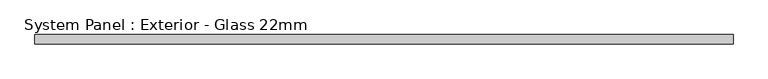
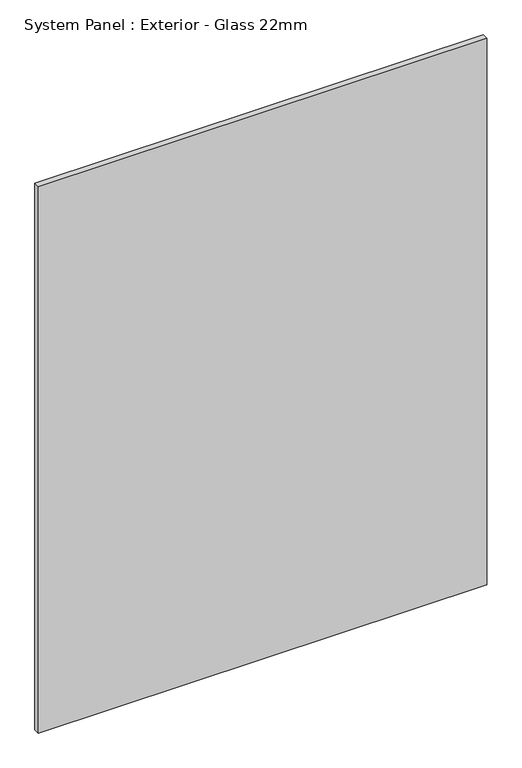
"""IFC4 building model written with IfcOpenShell, lengths in millimetres: plate geometry, System Panel : Exterior - Glass 22mm."""

from ifc_helpers import new_model, si_unit, origin, origin_with_axes, place, context, project, spatial, polyline, outline, extrude, source, transform, mapped, element, save


def system_panel_exterior_glass_22mm_266c4f93(model_context):
    return source(origin(), model_context, "Body", "SweptSolid", [
        extrude(outline(polyline([(815.0, -50.0), (-815.0, -50.0), (-815.0, -28.0), (815.0, -28.0), (815.0, -50.0)])), origin_with_axes(), (0.0, 0.0, 1.0), 2100.0),
    ])


if __name__ == "__main__":
    model = new_model("IFC4")
    model_context = context("Model", 3, world=origin())
    ifc_project = project(units=[si_unit("LENGTHUNIT", "METRE", prefix="MILLI")], contexts=[model_context])
    site = spatial("IfcSite", under=ifc_project)
    building = spatial("IfcBuilding", under=site)
    placement = place(None, origin())
    system_panel_exterior_glass_22mm_shape = system_panel_exterior_glass_22mm_266c4f93(model_context)
    element("IfcPlate", 1, ObjectType="System Panel : Exterior - Glass 22mm", at=placement, inside=building, context=model_context, shape_type="MappedRepresentation", body=[
        mapped(system_panel_exterior_glass_22mm_shape, transform((0.0, 0.0, 0.0), x_axis=(1.0, 0.0, 0.0), y_axis=(0.0, 1.0, 0.0), z_axis=(0.0, 0.0, 1.0))),
    ])
    save(model, "model.ifc")
